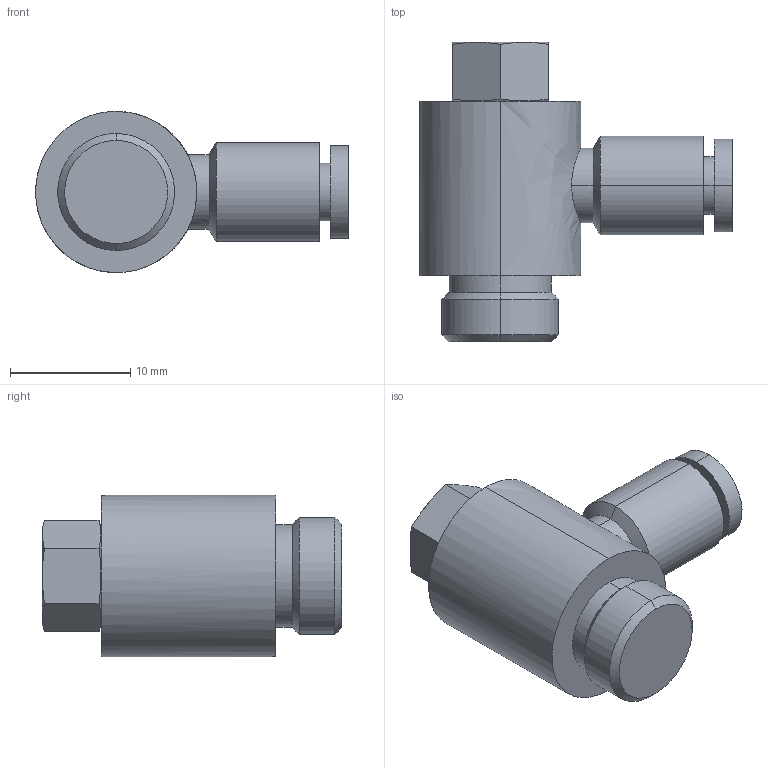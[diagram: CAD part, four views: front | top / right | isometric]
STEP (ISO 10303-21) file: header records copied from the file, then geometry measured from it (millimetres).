
FILE_DESCRIPTION (( 'STEP AP214' ), '1' );
FILE_NAME ('KQ2V04-G01A.STEP', '2023-03-09T03:01:54', ( 'Windows User' ), ( 'P R C' ), 'SwSTEP 2.0', 'SolidWorks 2019', '' );
FILE_SCHEMA (( 'AUTOMOTIVE_DESIGN' ));
Length unit declared in the file: millimetre
Products named in the file (1): KQ2V04-G01A
Bounding box: 25.99 x 24.9 x 13.4 mm (x, y, z)
Volume: 3123.5 mm3; surface area: 1784.4 mm2
Topology: 1 solids, 1 shells, 41 faces, 84 edges, 52 vertices
Faces by surface type: bspline 26, plane 15
Entity records: 1554 total; most frequent: CARTESIAN_POINT 954, ORIENTED_EDGE 168, EDGE_CURVE 84, B_SPLINE_CURVE_WITH_KNOTS 58, VERTEX_POINT 52, EDGE_LOOP 48, ADVANCED_FACE 41, FACE_OUTER_BOUND 41
